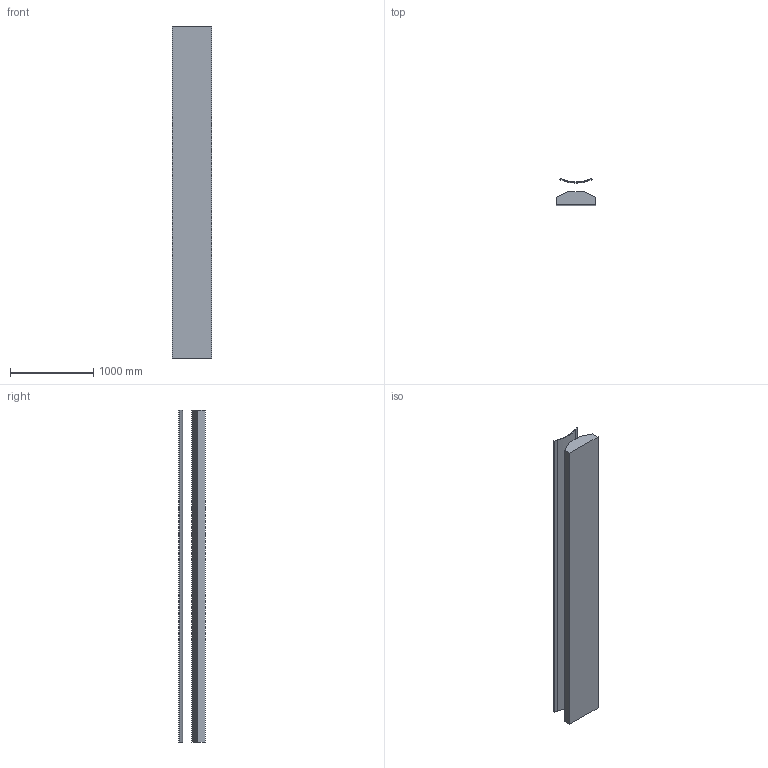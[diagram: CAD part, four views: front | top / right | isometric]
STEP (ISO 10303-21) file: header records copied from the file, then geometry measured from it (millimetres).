
FILE_DESCRIPTION (( 'STEP AP203' ), '1' );
FILE_NAME ('30771.step', '2019-03-14T14:33:07', ( 'PC' ), ( 'Hewlett-Packard Company' ), 'SwSTEP 2.0', 'SolidWorks 2016', '' );
FILE_SCHEMA (( 'CONFIG_CONTROL_DESIGN' ));
Length unit declared in the file: millimetre
Products named in the file (1): 30771
Bounding box: 480 x 319.15 x 4000 mm (x, y, z)
Volume: 280710639.1 mm3; surface area: 8074213.2 mm2
Topology: 2 solids, 2 shells, 18 faces, 42 edges, 28 vertices
Faces by surface type: plane 16, cylinder 2
Entity records: 585 total; most frequent: CARTESIAN_POINT 89, DIRECTION 84, ORIENTED_EDGE 84, EDGE_CURVE 42, VECTOR 38, LINE 38, VERTEX_POINT 28, AXIS2_PLACEMENT_3D 23
